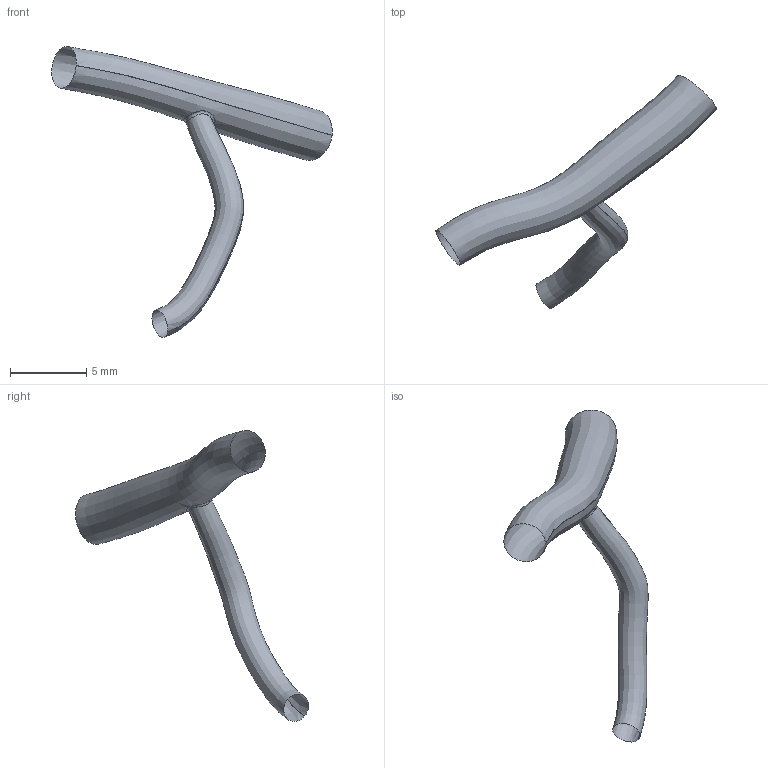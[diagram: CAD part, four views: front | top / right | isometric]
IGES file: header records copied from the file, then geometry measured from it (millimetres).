
Global section: file name: C:\Documents and Settings\Administrator\Desktop\FDA Bifurcation win\RawData_for_IGES\HRCA_Data\20010719.155526\IGES\20010719.155526.RM2.BIFUR.ED.igs; native system: Rhinoceros ( May 19 2006 ); preprocessor: Trout Lake IGES 012 May 19 2006; date: 100728.211804; units: centimetre
Bounding box: 18.39 x 15.28 x 19.07 mm (x, y, z)
Surface area: 290.1 mm2 (no closed solid volume)
Topology: 0 solids, 0 shells, 3 faces, 30 edges, 25 vertices
Faces by surface type: bspline 3
